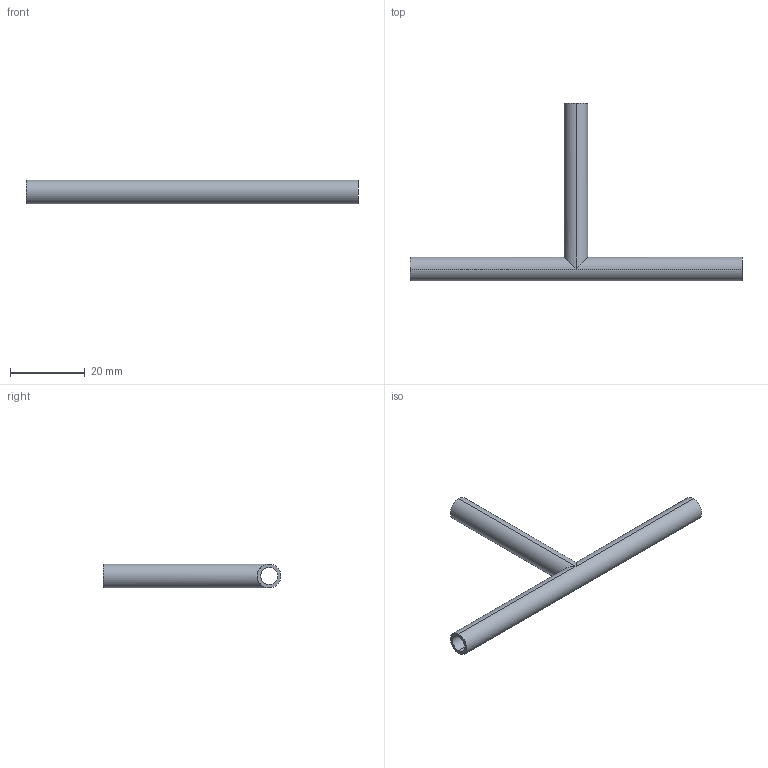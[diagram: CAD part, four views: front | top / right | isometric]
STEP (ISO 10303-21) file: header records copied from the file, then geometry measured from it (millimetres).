
FILE_DESCRIPTION (( 'STEP AP214' ), '1' );
FILE_NAME ('TE7WWW6L.25-...STEP', '2016-05-23T06:16:04', ( 'eran' ), ( '' ), 'SwSTEP 2.0', 'SolidWorks 2016', '' );
FILE_SCHEMA (( 'AUTOMOTIVE_DESIGN' ));
Length unit declared in the file: millimetre
Products named in the file (1): TE7WWW6L.25-..
Bounding box: 89 x 47.67 x 6.35 mm (x, y, z)
Volume: 1984.5 mm3; surface area: 4503.3 mm2
Topology: 1 solids, 1 shells, 13 faces, 28 edges, 16 vertices
Faces by surface type: cylinder 10, plane 3
Entity records: 392 total; most frequent: CARTESIAN_POINT 70, DIRECTION 64, ORIENTED_EDGE 56, EDGE_CURVE 28, AXIS2_PLACEMENT_3D 26, EDGE_LOOP 16, VERTEX_POINT 16, FACE_OUTER_BOUND 13
